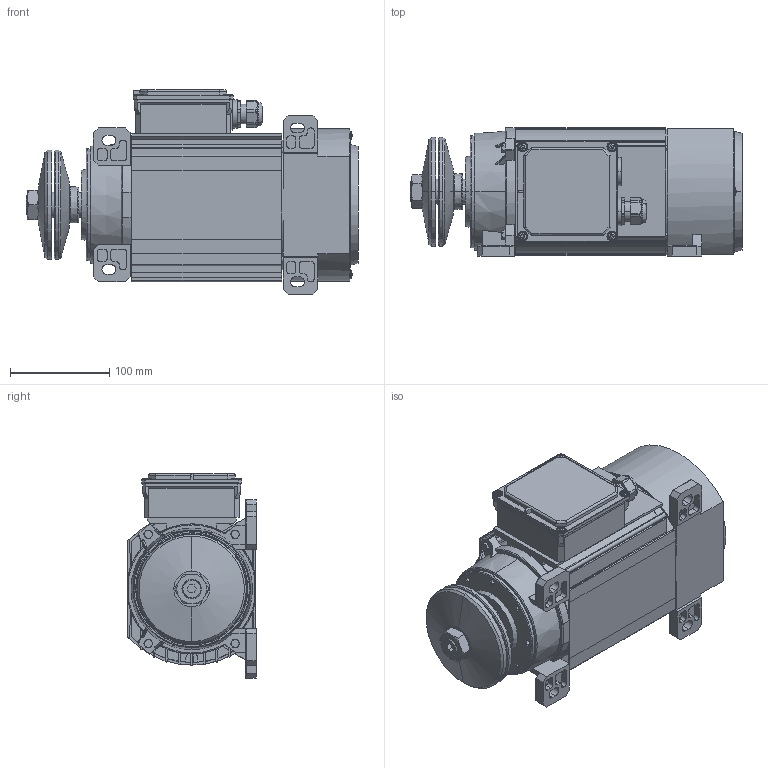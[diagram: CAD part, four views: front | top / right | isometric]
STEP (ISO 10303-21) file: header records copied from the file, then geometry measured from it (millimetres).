
FILE_DESCRIPTION (( 'STEP AP203' ), '1' );
FILE_NAME ('Flachmotor MR65_T1S.STEP', '2020-04-01T10:43:08', ( '' ), ( '' ), 'SwSTEP 2.0', 'SolidWorks 2012', '' );
FILE_SCHEMA (( 'CONFIG_CONTROL_DESIGN' ));
Products named in the file (2): Flachmotor MR65_T1S; MR65_T1S (I.R.)
Assembly tree (1 placements, depth 2):
  Flachmotor MR65_T1S
    MR65_T1S (I.R.)
Bounding box: 334.5 x 129.5 x 206 mm (x, y, z)
Surface area: 422065.1 mm2 (no closed solid volume)
Topology: 0 solids, 40 shells, 1178 faces, 3551 edges, 2366 vertices
Faces by surface type: plane 711, cylinder 316, cone 83, bspline 68
Entity records: 49197 total; most frequent: CARTESIAN_POINT 17945, ORIENTED_EDGE 6205, DIRECTION 6157, EDGE_CURVE 3537, VERTEX_POINT 2366, VECTOR 2329, LINE 2329, AXIS2_PLACEMENT_3D 1914
